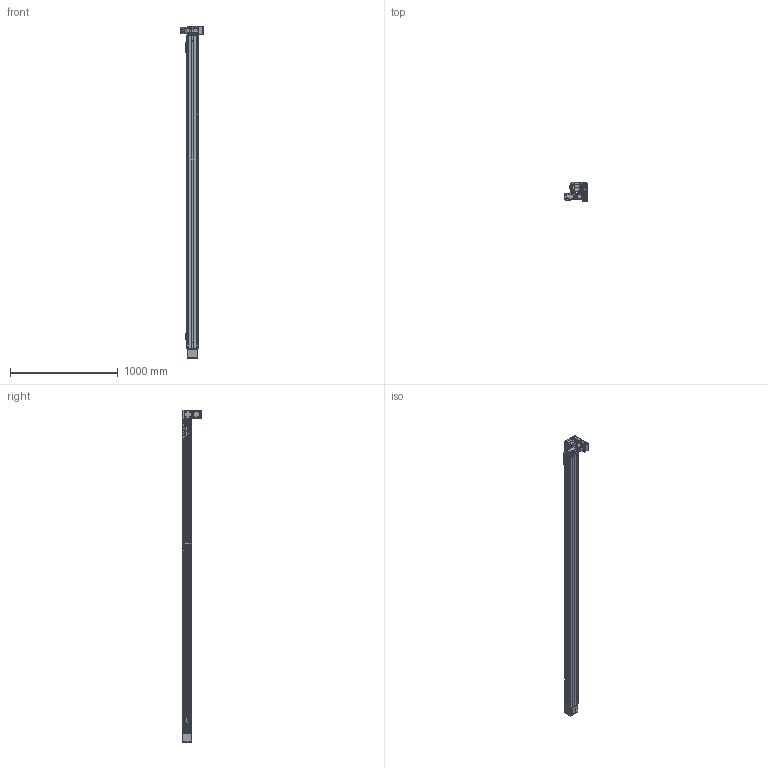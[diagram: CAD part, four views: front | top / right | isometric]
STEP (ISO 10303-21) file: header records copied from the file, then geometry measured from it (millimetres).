
FILE_DESCRIPTION(/* description */ ('MANUFACTURE'),/* implementation_level */ '2;1');
FILE_NAME(/* name */ '\\192.168.0.160\disk1\HAN SHIN Master\B-설계부문\C-표준\B-2024년\BC02-표준도면\+로봇 개선표준도면\홈페이지 표준 도면\홈페이지 최종 작업 폴더\3D\HSB\HSB90\DR\HSB90-DR2G-N-2700-L.stp',/* time_stamp */ '2025-04-25T16:59:21+09:00',/* author */ ('user'),/* organization */ (''),/* preprocessor_version */ 'ST-DEVELOPER v18.1',/* originating_system */ 'Autodesk Inventor 2022',/* authorisation */ 'LIP');
FILE_SCHEMA (('CONFIG_CONTROL_DESIGN'));
Products named in the file (31): HSB90-DR2G-N-0500-L; HSB90 BASE; HS90 TABLE-SR20W; HSB90 FRONT HOUSING (Connecting Shaft); HSB90 REAR HOUSING; HSB90 COVER; SIDE COVER; UPCOVER; HSB55 TENSION PLATE; HG90STOPPER - 27L; HSB90 REAR PULLEY; NSK_6903; HSB55 REAR SHAFT; HSB55 ACRYL COVER; PGX62-H-1_3; hg-kr23_; MOTOR PLATE-200W(MITSUBISHI); HSB90 END COVER; HSB160 BEARING OVER; HR65-BELT COVER-COVER3; HR75-LR-BELT COVER(200W); HSB75 D MOTOR PLATE-N; HR75-BELT COVER-COVER; HR75-BELT COVER-COVER2; HSB160 SHAFT-1; NSK_6006; HR120 SENSOR DOG; SENSOR BRK(EE-SX674A); EE_SX674A; hsr_ftht_A-M6F_grease_nipple_joint; NIPPLE CAP(신규)
Assembly tree (48 placements, depth 2):
  HSB90-DR2G-N-0500-L
    HSB90 BASE
    HS90 TABLE-SR20W
    HSB90 FRONT HOUSING (Connecting Shaft)
    HSB90 COVER  x2
    HSB90 REAR HOUSING
    SIDE COVER  x2
    UPCOVER
    HSB55 TENSION PLATE  x2
    HG90STOPPER - 27L  x4
    HSB90 REAR PULLEY
    NSK_6903  x2
    HSB55 REAR SHAFT
    HSB55 ACRYL COVER  x4
    PGX62-H-1_3
    hg-kr23_
    MOTOR PLATE-200W(MITSUBISHI)
    HSB90 END COVER
    HSB160 BEARING OVER
    HR75-BELT COVER-COVER2  x2
    HR65-BELT COVER-COVER3
    HR75-LR-BELT COVER(200W)
    HSB75 D MOTOR PLATE-N
    HR75-BELT COVER-COVER
    HSB160 SHAFT-1
    NSK_6006  x2
    SENSOR BRK(EE-SX674A)  x3
    EE_SX674A  x3
    HR120 SENSOR DOG
    hsr_ftht_A-M6F_grease_nipple_joint  x2
    NIPPLE CAP(신규)  x2
Bounding box: 206.6 x 181.5 x 3085 mm (x, y, z)
Volume: 8813839.7 mm3; surface area: 3346460.2 mm2
Topology: 123 solids, 123 shells, 6531 faces, 18206 edges, 12003 vertices
Faces by surface type: plane 4876, cylinder 1215, cone 302, sphere 70, torus 49, bspline 19
Full cylindrical faces by diameter (mm): 2.013 x4, 2.459 x76, 3.242 x50, 3.3 x5, 3.4 x22, 3.5 x22, 4 x1, 4.134 x62, 4.2 x10, 4.5 x34, 4.917 x34, 5 x24, 5.5 x42, 5.6 x10, 5.8 x4, 5.9 x8, 6 x10, 6.5 x4, 7 x1, 8 x13, 8.5 x4, 9 x4, 9.5 x34, 14 x3, 14.2 x1, 15 x5, 16 x2, 16.2 x2, 17 x7, 19.8 x3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
Entity records: 151023 total; most frequent: CARTESIAN_POINT 29653, ORIENTED_EDGE 25198, DIRECTION 24389, EDGE_CURVE 12599, LINE 9401, VECTOR 9401, VERTEX_POINT 8392, AXIS2_PLACEMENT_3D 7494
